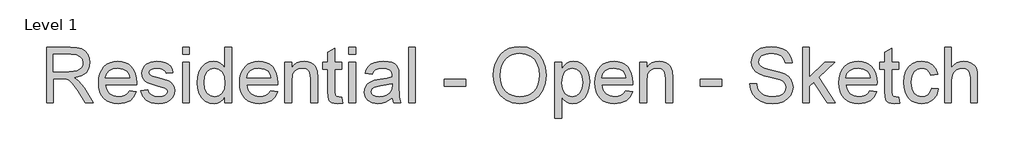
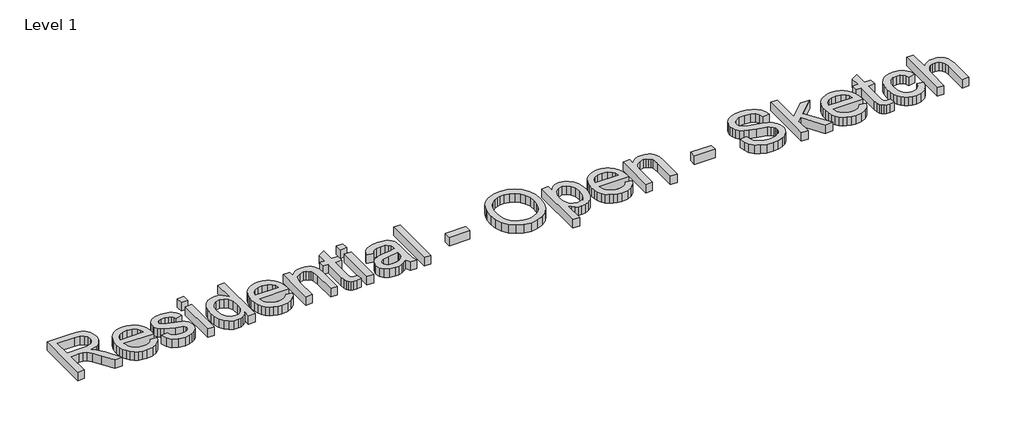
# One storey, part 12 of 26: 1 proxy.
"""IFC4 building model written with IfcOpenShell, lengths in millimetres."""

from ifc_helpers import new_model, si_unit, origin, origin_with_axes, place, context, project, spatial, polyline, outline, extrude, element, save

model = new_model("IFC4")

# Units and contexts
model_context = context("Model", 3, world=origin())
ifc_project = project(units=[si_unit("LENGTHUNIT", "METRE", prefix="MILLI")], contexts=[model_context])

# Site, building, storey
site = spatial("IfcSite", under=ifc_project)
building = spatial("IfcBuilding", under=site)
storey = spatial("IfcBuildingStorey", under=building, Name="Level 1", Elevation=0.0)

# Proxy
placement = place(None, origin())
element("IfcBuildingElementProxy", 1, Name="12\" Arial", ObjectType="12\" Arial", at=placement, inside=storey, context=model_context, shape_type="SweptSolid", body=[
    extrude(outline(polyline([(-4715.4981187, -5763.1232123), (-4715.4981187, -5463.012443), (-4586.1779264, -5463.012443), (-4551.420835, -5465.0365055), (-4526.1337918, -5471.108693), (-4507.6516283, -5482.3188854), (-4493.3091764, -5499.7569623), (-4484.1047293, -5521.380544), (-4481.0365802, -5545.1472507), (-4486.1196331, -5574.7113854), (-4501.3687918, -5599.219943), (-4512.9201439, -5609.2074551), (-4527.2419889, -5617.1892219), (-4564.1971571, -5627.13552), (-4542.875811, -5643.1814815), (-4512.4690802, -5681.7943661), (-4462.4261956, -5763.1232123), (-4506.0213879, -5763.1232123), (-4545.0738879, -5700.9176354), (-4573.2825418, -5659.7403277), (-4593.1018687, -5640.2873469), (-4610.9429264, -5633.1435969), (-4632.7038879, -5631.8247507), (-4677.9842725, -5631.8247507), (-4677.9842725, -5763.1232123), (-4715.4981187, -5763.1232123)]), holes=[polyline([(-4677.9842725, -5594.3109046), (-4594.0177341, -5594.3109046), (-4569.9029985, -5592.9828998), (-4551.1918687, -5588.9988854), (-4537.1058591, -5582.0932604), (-4526.8664841, -5572.0004238), (-4520.6294408, -5559.7919382), (-4518.5504264, -5546.5393661), (-4522.5161235, -5528.2403757), (-4534.4132148, -5513.494943), (-4554.8828062, -5503.7684527), (-4584.5660033, -5500.5262892), (-4677.9842725, -5500.5262892), (-4677.9842725, -5594.3109046)])]), origin_with_axes(), (0.0, 0.0, 1.0), 50.8),
    extrude(outline(polyline([(-4265.7715802, -5697.4739815), (-4228.9904264, -5702.1632123), (-4242.2429985, -5729.8772988), (-4263.3903302, -5750.5941738), (-4291.9561716, -5763.5078757), (-4327.4642725, -5767.812443), (-4350.7409913, -5765.955526), (-4371.4807629, -5760.3847748), (-4389.6835874, -5751.1001894), (-4405.3494648, -5738.10177), (-4417.9471932, -5721.7512832), (-4426.9455706, -5702.4104959), (-4432.344597, -5680.0794082), (-4434.1442725, -5654.75802), (-4432.3262797, -5628.5780079), (-4426.8723014, -5605.5027796), (-4417.7823374, -5585.5323349), (-4405.0563879, -5568.6666738), (-4389.4317244, -5555.2675632), (-4371.6456187, -5545.69677), (-4351.6980706, -5539.954294), (-4329.5890802, -5538.0401354), (-4308.1921752, -5539.9497147), (-4288.8422293, -5545.6784527), (-4271.5392425, -5555.2263493), (-4256.2832148, -5568.5934046), (-4243.8297353, -5585.422431), (-4234.9343927, -5605.3562411), (-4229.5971872, -5628.3948349), (-4227.8181187, -5654.5382123), (-4228.0379264, -5664.6493661), (-4396.6304264, -5664.6493661), (-4390.1369408, -5692.7297988), (-4375.0526379, -5713.3734046), (-4353.2825177, -5726.0672988), (-4326.7315802, -5730.2985969), (-4306.7657148, -5728.338645), (-4289.9504264, -5722.4587892), (-4276.2857148, -5712.2926834), (-4265.7715802, -5697.4739815)]), holes=[polyline([(-4396.6304264, -5627.13552), (-4265.3319648, -5627.13552), (-4270.4058591, -5607.316193), (-4280.3521571, -5593.1385969), (-4302.2230225, -5579.9501354), (-4329.7356187, -5575.5539815), (-4355.0226619, -5579.0617459), (-4375.9318687, -5589.5850392), (-4390.4666523, -5605.9881882), (-4396.6304264, -5627.13552)])]), origin_with_axes(), (0.0, 0.0, 1.0), 50.8),
    extrude(outline(polyline([(-4204.3719648, -5697.4739815), (-4166.8581187, -5692.7847507), (-4160.9416283, -5708.8307123), (-4149.493311, -5720.6270584), (-4132.4398975, -5727.8807123), (-4109.7081187, -5730.2985969), (-4087.2510994, -5728.0822027), (-4071.4615802, -5721.43302), (-4062.1197533, -5711.7981161), (-4059.005811, -5700.6245584), (-4062.1380706, -5691.0629238), (-4071.5348494, -5683.7726354), (-4110.1477341, -5673.0753277), (-4166.638311, -5654.7213854), (-4180.9349696, -5645.4986209), (-4191.2934071, -5633.2901354), (-4197.5854023, -5618.8744142), (-4199.6827341, -5603.029943), (-4197.9975418, -5588.4951594), (-4192.9419648, -5575.0777315), (-4184.973936, -5563.3088613), (-4174.5513879, -5553.7197507), (-4150.7022533, -5542.6194623), (-4118.4271571, -5538.0401354), (-4094.010186, -5539.8810248), (-4072.7804264, -5545.403693), (-4055.7086956, -5554.0677796), (-4043.765811, -5565.3329238), (-4035.8527341, -5580.0325632), (-4030.8704264, -5599.0001354), (-4068.3842725, -5603.6893661), (-4073.1192966, -5591.8838613), (-4082.4885994, -5582.9908084), (-4096.5837677, -5577.4131882), (-4115.4963879, -5575.5539815), (-4137.0375418, -5577.3307604), (-4151.398311, -5582.6610969), (-4159.4762437, -5590.3543661), (-4162.1688879, -5599.219943), (-4157.6994648, -5610.1370584), (-4143.7050418, -5618.4164815), (-4111.393311, -5626.4028277), (-4056.3314841, -5644.0607123), (-4041.7875418, -5652.5049911), (-4030.7605225, -5664.0632123), (-4023.8091043, -5678.7720104), (-4021.4919648, -5696.66802), (-4024.212085, -5715.1685007), (-4032.3724456, -5732.569943), (-4045.6616523, -5747.5077075), (-4063.768311, -5758.6171546), (-4085.6391764, -5765.5136209), (-4110.2210033, -5767.812443), (-4148.0462437, -5763.3796546), (-4175.6504264, -5750.0812892), (-4194.0776379, -5728.0638854), (-4204.3719648, -5697.4739815)])), origin_with_axes(), (0.0, 0.0, 1.0), 50.8),
    extrude(outline(polyline([(-3979.2888879, -5763.1232123), (-3979.2888879, -5542.7293661), (-3941.7750418, -5542.7293661), (-3941.7750418, -5763.1232123), (-3979.2888879, -5763.1232123)])), origin_with_axes(), (0.0, 0.0, 1.0), 50.8),
    extrude(outline(polyline([(-3979.2888879, -5500.5262892), (-3979.2888879, -5463.012443), (-3941.7750418, -5463.012443), (-3941.7750418, -5500.5262892), (-3979.2888879, -5500.5262892)])), origin_with_axes(), (0.0, 0.0, 1.0), 50.8),
    extrude(outline(polyline([(-3749.5165802, -5763.1232123), (-3749.5165802, -5727.7341738), (-3760.7405105, -5745.2684166), (-3774.3365321, -5757.7928757), (-3790.3046451, -5765.3075512), (-3808.6448494, -5767.812443), (-3832.8969648, -5764.1856161), (-3855.0975418, -5753.3051354), (-3873.8910994, -5735.931169), (-3887.9221571, -5712.8238854), (-3896.6595129, -5684.9174671), (-3899.5719648, -5653.1460969), (-3896.8884793, -5621.7685488), (-3888.8380225, -5593.4316738), (-3875.4297533, -5569.747395), (-3856.6728302, -5552.3276354), (-3833.9868446, -5541.6120104), (-3808.7913879, -5538.0401354), (-3790.4374456, -5540.5953998), (-3774.208311, -5548.261193), (-3760.4520129, -5560.0117459), (-3749.5165802, -5574.8212892), (-3749.5165802, -5463.012443), (-3712.0027341, -5463.012443), (-3712.0027341, -5763.1232123), (-3749.5165802, -5763.1232123)]), holes=[polyline([(-3862.0581187, -5652.9995584), (-3857.8268206, -5686.9323709), (-3845.1329264, -5711.0654238), (-3826.6873975, -5725.4903036), (-3805.2011956, -5730.2985969), (-3783.7241523, -5725.7101113), (-3765.7457148, -5711.9446546), (-3753.5738639, -5688.7457844), (-3749.5165802, -5655.8570584), (-3753.6471331, -5619.9001834), (-3766.0387918, -5594.9703277), (-3784.4751619, -5580.408068), (-3806.7398494, -5575.5539815), (-3828.4458591, -5580.2157363), (-3846.2319648, -5594.2010007), (-3858.1015802, -5618.2241498), (-3862.0581187, -5652.9995584)])]), origin_with_axes(), (0.0, 0.0, 1.0), 50.8),
    extrude(outline(polyline([(-3501.4269648, -5697.4739815), (-3464.645811, -5702.1632123), (-3477.8983831, -5729.8772988), (-3499.0457148, -5750.5941738), (-3527.6115562, -5763.5078757), (-3563.1196571, -5767.812443), (-3586.3963759, -5765.955526), (-3607.1361475, -5760.3847748), (-3625.338972, -5751.1001894), (-3641.0048494, -5738.10177), (-3653.6025778, -5721.7512832), (-3662.6009552, -5702.4104959), (-3667.9999817, -5680.0794082), (-3669.7996571, -5654.75802), (-3667.9816643, -5628.5780079), (-3662.527686, -5605.5027796), (-3653.437722, -5585.5323349), (-3640.7117725, -5568.6666738), (-3625.0871091, -5555.2675632), (-3607.3010033, -5545.69677), (-3587.3534552, -5539.954294), (-3565.2444648, -5538.0401354), (-3543.8475598, -5539.9497147), (-3524.4976139, -5545.6784527), (-3507.1946271, -5555.2263493), (-3491.9385994, -5568.5934046), (-3479.4851199, -5585.422431), (-3470.5897773, -5605.3562411), (-3465.2525718, -5628.3948349), (-3463.4735033, -5654.5382123), (-3463.693311, -5664.6493661), (-3632.285811, -5664.6493661), (-3625.7923254, -5692.7297988), (-3610.7080225, -5713.3734046), (-3588.9379023, -5726.0672988), (-3562.3869648, -5730.2985969), (-3542.4210994, -5728.338645), (-3525.605811, -5722.4587892), (-3511.9410994, -5712.2926834), (-3501.4269648, -5697.4739815)]), holes=[polyline([(-3632.285811, -5627.13552), (-3500.9873494, -5627.13552), (-3506.0612437, -5607.316193), (-3516.0075418, -5593.1385969), (-3537.8784071, -5579.9501354), (-3565.3910033, -5575.5539815), (-3590.6780466, -5579.0617459), (-3611.5872533, -5589.5850392), (-3626.1220369, -5605.9881882), (-3632.285811, -5627.13552)])]), origin_with_axes(), (0.0, 0.0, 1.0), 50.8),
    extrude(outline(polyline([(-3425.9596571, -5763.1232123), (-3425.9596571, -5542.7293661), (-3388.445811, -5542.7293661), (-3388.445811, -5573.502443), (-3375.4130466, -5557.9876834), (-3359.7609071, -5546.9057123), (-3341.4893927, -5540.2565296), (-3320.5985033, -5538.0401354), (-3302.1071812, -5539.8260729), (-3285.1728302, -5545.1838854), (-3271.050186, -5553.4449911), (-3260.9939841, -5563.9408084), (-3249.7471571, -5591.5266738), (-3247.7688879, -5627.794943), (-3247.7688879, -5763.1232123), (-3285.2827341, -5763.1232123), (-3285.2827341, -5632.85052), (-3289.6056187, -5599.6595584), (-3295.5862196, -5589.7773709), (-3304.8822533, -5582.1115777), (-3316.7976619, -5577.1933805), (-3330.6363879, -5575.5539815), (-3352.6079985, -5579.2357604), (-3371.3374456, -5590.2810969), (-3378.8223555, -5599.2977916), (-3384.1687196, -5611.6207604), (-3388.445811, -5646.18552), (-3388.445811, -5763.1232123), (-3425.9596571, -5763.1232123)])), origin_with_axes(), (0.0, 0.0, 1.0), 50.8),
    extrude(outline(polyline([(-3116.4704264, -5731.8372507), (-3111.7811956, -5764.2222507), (-3139.843311, -5767.812443), (-3157.8492244, -5766.2554719), (-3171.275811, -5761.5845584), (-3180.7641764, -5754.3858565), (-3186.9554264, -5745.24552), (-3190.3624456, -5729.5475873), (-3191.4981187, -5702.6760969), (-3191.4981187, -5580.2432123), (-3219.6335033, -5580.2432123), (-3219.6335033, -5542.7293661), (-3191.4981187, -5542.7293661), (-3191.4981187, -5489.1695584), (-3153.9842725, -5467.11552), (-3153.9842725, -5542.7293661), (-3116.4704264, -5542.7293661), (-3116.4704264, -5580.2432123), (-3153.9842725, -5580.2432123), (-3153.9842725, -5701.5770584), (-3152.0060033, -5720.9201354), (-3145.5949456, -5727.7708084), (-3132.8094648, -5730.2985969), (-3116.4704264, -5731.8372507)])), origin_with_axes(), (0.0, 0.0, 1.0), 50.8),
    extrude(outline(polyline([(-3078.9565802, -5763.1232123), (-3078.9565802, -5542.7293661), (-3041.4427341, -5542.7293661), (-3041.4427341, -5763.1232123), (-3078.9565802, -5763.1232123)])), origin_with_axes(), (0.0, 0.0, 1.0), 50.8),
    extrude(outline(polyline([(-3078.9565802, -5500.5262892), (-3078.9565802, -5463.012443), (-3041.4427341, -5463.012443), (-3041.4427341, -5500.5262892), (-3078.9565802, -5500.5262892)])), origin_with_axes(), (0.0, 0.0, 1.0), 50.8),
    extrude(outline(polyline([(-2844.4950418, -5734.9878277), (-2862.4185273, -5750.3560488), (-2880.8732148, -5760.4122507), (-2900.2804023, -5765.962395), (-2921.0613879, -5767.812443), (-2952.41146, -5763.3613373), (-2975.537061, -5750.00802), (-2989.797085, -5729.7307604), (-2994.5504264, -5704.5078277), (-2992.7553302, -5688.9564334), (-2987.3700418, -5674.8337892), (-2979.0631427, -5662.7443661), (-2968.5032148, -5653.2926354), (-2942.2361956, -5640.9834046), (-2909.7779264, -5635.3416738), (-2871.4214841, -5629.4068661), (-2844.7148494, -5622.4462892), (-2844.4950418, -5614.0935969), (-2847.0777821, -5597.3515777), (-2854.8260033, -5586.3978277), (-2872.1541764, -5578.264943), (-2896.2963879, -5575.5539815), (-2918.6435033, -5577.3582363), (-2934.2498494, -5582.7710007), (-2944.8922052, -5592.7814094), (-2952.3473494, -5608.3785969), (-2989.8611956, -5603.6893661), (-2983.3493927, -5583.1739815), (-2973.632061, -5567.0547507), (-2959.8024937, -5554.7272027), (-2940.9539841, -5545.5868661), (-2917.9016523, -5539.926818), (-2891.4606187, -5538.0401354), (-2866.1003062, -5539.7070104), (-2845.997061, -5544.7076354), (-2830.8394889, -5552.2268902), (-2820.3161956, -5561.4496546), (-2813.3373014, -5572.8521786), (-2808.8129264, -5586.9107123), (-2806.9811956, -5619.7353277), (-2806.9811956, -5666.4078277), (-2805.0761956, -5731.5808084), (-2797.6027341, -5763.1232123), (-2835.1165802, -5763.1232123), (-2844.4950418, -5734.9878277)]), holes=[polyline([(-2844.4950418, -5659.9601354), (-2905.0154264, -5671.4634046), (-2937.2905225, -5677.5447507), (-2951.9077341, -5687.4360969), (-2957.0365802, -5701.8701354), (-2954.2431908, -5713.0253757), (-2945.8630225, -5722.1657123), (-2932.0792485, -5728.2653757), (-2913.0750418, -5730.2985969), (-2892.9260033, -5728.0547267), (-2875.1215802, -5721.3231161), (-2860.6875418, -5711.404294), (-2850.6496571, -5699.5987892), (-2846.1985514, -5687.4360969), (-2844.7148494, -5670.5841738), (-2844.4950418, -5659.9601354)])]), origin_with_axes(), (0.0, 0.0, 1.0), 50.8),
    extrude(outline(polyline([(-2755.3996571, -5763.1232123), (-2755.3996571, -5463.012443), (-2717.885811, -5463.012443), (-2717.885811, -5763.1232123), (-2755.3996571, -5763.1232123)])), origin_with_axes(), (0.0, 0.0, 1.0), 50.8),
    extrude(outline(polyline([(-2563.1411956, -5674.0278277), (-2563.1411956, -5636.5139815), (-2445.9104264, -5636.5139815), (-2445.9104264, -5674.0278277), (-2563.1411956, -5674.0278277)])), origin_with_axes(), (0.0, 0.0, 1.0), 50.8),
    extrude(outline(polyline([(-2295.8550418, -5617.0243661), (-2293.3547293, -5581.8230801), (-2285.8537918, -5550.6607604), (-2273.3522293, -5523.537407), (-2255.8500418, -5500.45302), (-2234.3958951, -5482.0212291), (-2210.0384552, -5468.8556642), (-2182.777722, -5460.9563253), (-2152.6136956, -5458.3232123), (-2113.2498014, -5463.2688854), (-2077.9523494, -5478.1059046), (-2048.6446571, -5501.7901834), (-2027.2500418, -5533.2776354), (-2014.1714841, -5571.0479238), (-2009.8119648, -5613.5807123), (-2014.4004504, -5656.6813373), (-2028.1659071, -5694.9828277), (-2050.3481668, -5726.5252315), (-2080.187061, -5749.3485969), (-2115.1822773, -5763.1964815), (-2152.8335033, -5767.812443), (-2192.8018687, -5762.7110729), (-2228.300811, -5747.4069623), (-2257.5352341, -5723.283068), (-2278.7100418, -5691.7223469), (-2291.5687918, -5655.4082844), (-2295.8550418, -5617.0243661)]), holes=[polyline([(-2258.3411956, -5617.3907123), (-2256.4659612, -5642.2610368), (-2250.8402581, -5664.3379719), (-2241.4640862, -5683.6215176), (-2228.3374456, -5700.1116738), (-2212.3807809, -5713.3184527), (-2194.5145369, -5722.7518661), (-2174.7387136, -5728.4119142), (-2153.053311, -5730.2985969), (-2130.9969829, -5728.3935969), (-2110.9876139, -5722.6785969), (-2093.025204, -5713.1535969), (-2077.1097533, -5699.8185969), (-2064.0792785, -5682.9804118), (-2054.7717966, -5662.9458565), (-2049.1873074, -5639.714931), (-2047.325811, -5613.2876354), (-2050.5130225, -5580.0783565), (-2060.0746571, -5551.3751354), (-2075.7634312, -5527.9015055), (-2097.332061, -5510.3810007), (-2123.3517966, -5499.473044), (-2152.3938879, -5495.8370584), (-2173.3259913, -5497.588651), (-2192.7469168, -5502.8434286), (-2210.6566643, -5511.6013914), (-2227.0552341, -5523.8625392), (-2240.7428422, -5540.2176053), (-2250.5197052, -5561.2573229), (-2256.385823, -5586.9816918), (-2258.3411956, -5617.3907123)])]), origin_with_axes(), (0.0, 0.0, 1.0), 50.8),
    extrude(outline(polyline([(-1962.9196571, -5847.5293661), (-1962.9196571, -5542.7293661), (-1925.405811, -5542.7293661), (-1925.405811, -5579.51052), (-1913.1698494, -5561.3672267), (-1899.4685033, -5548.4077315), (-1883.495811, -5540.6320344), (-1864.445811, -5538.0401354), (-1839.0763398, -5541.6669623), (-1816.8940802, -5552.547443), (-1798.8332148, -5570.0221546), (-1785.8279264, -5593.4316738), (-1777.9698014, -5621.0724911), (-1775.3504264, -5651.2410969), (-1778.3086716, -5683.3238613), (-1787.1834071, -5712.0179238), (-1801.6907148, -5735.8670584), (-1821.5466764, -5753.4150392), (-1844.6722773, -5764.2130921), (-1868.9885033, -5767.812443), (-1886.2342485, -5765.4037171), (-1901.6299456, -5758.1775392), (-1914.8092485, -5747.2695825), (-1925.405811, -5733.81552), (-1925.405811, -5847.5293661), (-1962.9196571, -5847.5293661)]), holes=[polyline([(-1925.405811, -5654.6847507), (-1921.3485273, -5688.3153277), (-1909.1766764, -5711.8347507), (-1891.2165562, -5725.6826354), (-1869.7944648, -5730.2985969), (-1848.0243446, -5725.5177796), (-1829.6062918, -5711.1753277), (-1817.0497773, -5686.7949911), (-1812.8642725, -5651.90052), (-1816.9490321, -5618.4531161), (-1829.203311, -5594.6039815), (-1847.1359552, -5580.3164815), (-1868.255811, -5575.5539815), (-1889.4580946, -5580.6187171), (-1908.0776379, -5595.8129238), (-1921.0737677, -5620.6603517), (-1925.405811, -5654.6847507)])]), origin_with_axes(), (0.0, 0.0, 1.0), 50.8),
    extrude(outline(polyline([(-1578.8423494, -5697.4739815), (-1542.0611956, -5702.1632123), (-1555.3137677, -5729.8772988), (-1576.4610994, -5750.5941738), (-1605.0269408, -5763.5078757), (-1640.5350418, -5767.812443), (-1663.8117605, -5765.955526), (-1684.5515321, -5760.3847748), (-1702.7543567, -5751.1001894), (-1718.4202341, -5738.10177), (-1731.0179624, -5721.7512832), (-1740.0163398, -5702.4104959), (-1745.4153663, -5680.0794082), (-1747.2150418, -5654.75802), (-1745.397049, -5628.5780079), (-1739.9430706, -5605.5027796), (-1730.8531067, -5585.5323349), (-1718.1271571, -5568.6666738), (-1702.5024937, -5555.2675632), (-1684.7163879, -5545.69677), (-1664.7688398, -5539.954294), (-1642.6598494, -5538.0401354), (-1621.2629444, -5539.9497147), (-1601.9129985, -5545.6784527), (-1584.6100117, -5555.2263493), (-1569.3539841, -5568.5934046), (-1556.9005045, -5585.422431), (-1548.0051619, -5605.3562411), (-1542.6679564, -5628.3948349), (-1540.8888879, -5654.5382123), (-1541.1086956, -5664.6493661), (-1709.7011956, -5664.6493661), (-1703.20771, -5692.7297988), (-1688.1234071, -5713.3734046), (-1666.3532869, -5726.0672988), (-1639.8023494, -5730.2985969), (-1619.8364841, -5728.338645), (-1603.0211956, -5722.4587892), (-1589.3564841, -5712.2926834), (-1578.8423494, -5697.4739815)]), holes=[polyline([(-1709.7011956, -5627.13552), (-1578.4027341, -5627.13552), (-1583.4766283, -5607.316193), (-1593.4229264, -5593.1385969), (-1615.2937918, -5579.9501354), (-1642.8063879, -5575.5539815), (-1668.0934312, -5579.0617459), (-1689.0026379, -5589.5850392), (-1703.5374216, -5605.9881882), (-1709.7011956, -5627.13552)])]), origin_with_axes(), (0.0, 0.0, 1.0), 50.8),
    extrude(outline(polyline([(-1503.3750418, -5763.1232123), (-1503.3750418, -5542.7293661), (-1465.8611956, -5542.7293661), (-1465.8611956, -5573.502443), (-1452.8284312, -5557.9876834), (-1437.1762918, -5546.9057123), (-1418.9047773, -5540.2565296), (-1398.0138879, -5538.0401354), (-1379.5225658, -5539.8260729), (-1362.5882148, -5545.1838854), (-1348.4655706, -5553.4449911), (-1338.4093687, -5563.9408084), (-1327.1625418, -5591.5266738), (-1325.1842725, -5627.794943), (-1325.1842725, -5763.1232123), (-1362.6981187, -5763.1232123), (-1362.6981187, -5632.85052), (-1367.0210033, -5599.6595584), (-1373.0016043, -5589.7773709), (-1382.2976379, -5582.1115777), (-1394.2130466, -5577.1933805), (-1408.0517725, -5575.5539815), (-1430.0233831, -5579.2357604), (-1448.7528302, -5590.2810969), (-1456.2377401, -5599.2977916), (-1461.5841043, -5611.6207604), (-1465.8611956, -5646.18552), (-1465.8611956, -5763.1232123), (-1503.3750418, -5763.1232123)])), origin_with_axes(), (0.0, 0.0, 1.0), 50.8),
    extrude(outline(polyline([(-1175.1288879, -5674.0278277), (-1175.1288879, -5636.5139815), (-1057.8981187, -5636.5139815), (-1057.8981187, -5674.0278277), (-1175.1288879, -5674.0278277)])), origin_with_axes(), (0.0, 0.0, 1.0), 50.8),
    extrude(outline(polyline([(-907.8427341, -5659.9601354), (-870.3288879, -5659.9601354), (-866.0243206, -5680.7777555), (-858.2394648, -5697.5106161), (-846.0950898, -5710.7906642), (-828.7119648, -5721.2498469), (-807.4638879, -5728.0364094), (-783.7246571, -5730.2985969), (-762.8246091, -5728.5859286), (-744.5256187, -5723.4479238), (-729.6977581, -5715.3150392), (-719.2110994, -5704.6177315), (-712.9740562, -5692.3359767), (-710.8950418, -5679.4497507), (-712.4520129, -5666.8932363), (-717.1229264, -5656.0402315), (-726.6112918, -5646.7808325), (-742.6206187, -5639.0051354), (-797.2428302, -5624.6810007), (-833.09896, -5615.201794), (-856.0413879, -5606.18052), (-874.7158831, -5593.559895), (-887.9501379, -5578.264943), (-895.8357389, -5560.6253757), (-898.4642725, -5540.9709046), (-895.2129504, -5518.999294), (-885.4589841, -5498.5113854), (-869.4588158, -5481.1465777), (-847.4688879, -5468.54427), (-821.0736475, -5460.8784767), (-791.8575418, -5458.3232123), (-760.2052341, -5460.9975392), (-732.5094648, -5469.02052), (-709.7593687, -5482.2272988), (-692.9440802, -5500.45302), (-682.3017244, -5522.5620104), (-678.0704264, -5547.4185969), (-715.5842725, -5547.4185969), (-722.4715802, -5525.0348469), (-736.8323494, -5508.8789815), (-759.2710514, -5499.0975392), (-790.3921571, -5495.8370584), (-822.2459552, -5499.0609046), (-844.0985033, -5508.732443), (-856.7374456, -5522.9649911), (-860.9504264, -5539.8718661), (-857.9647052, -5554.2875873), (-849.0075418, -5565.882443), (-827.8327341, -5576.2500392), (-787.7544648, -5586.837443), (-746.3939841, -5596.893645), (-721.3725418, -5605.6676354), (-699.987085, -5619.277395), (-685.0676379, -5636.0743661), (-676.3028062, -5655.8753757), (-673.3811956, -5678.4972507), (-676.7424216, -5701.6228517), (-686.8260994, -5723.3746546), (-703.2200898, -5742.094943), (-725.5122533, -5756.1260007), (-752.3196331, -5764.8908325), (-782.2592725, -5767.812443), (-819.0129504, -5764.6618661), (-849.2639841, -5755.2101354), (-873.3604023, -5739.4206161), (-891.6502341, -5717.2566738), (-903.3916283, -5690.2569623), (-907.8427341, -5659.9601354)])), origin_with_axes(), (0.0, 0.0, 1.0), 50.8),
    extrude(outline(polyline([(-621.7996571, -5763.1232123), (-621.7996571, -5463.012443), (-584.285811, -5463.012443), (-584.285811, -5624.27802), (-500.1727341, -5542.7293661), (-448.2981187, -5542.7293661), (-533.4369648, -5625.3037892), (-443.6088879, -5763.1232123), (-487.4238879, -5763.1232123), (-560.3267725, -5651.3876354), (-584.285811, -5674.6139815), (-584.285811, -5763.1232123), (-621.7996571, -5763.1232123)])), origin_with_axes(), (0.0, 0.0, 1.0), 50.8),
    extrude(outline(polyline([(-256.4792725, -5697.4739815), (-219.6981187, -5702.1632123), (-232.9506908, -5729.8772988), (-254.0980225, -5750.5941738), (-282.6638639, -5763.5078757), (-318.1719648, -5767.812443), (-341.4486836, -5765.955526), (-362.1884552, -5760.3847748), (-380.3912797, -5751.1001894), (-396.0571571, -5738.10177), (-408.6548855, -5721.7512832), (-417.6532629, -5702.4104959), (-423.0522893, -5680.0794082), (-424.8519648, -5654.75802), (-423.033972, -5628.5780079), (-417.5799937, -5605.5027796), (-408.4900297, -5585.5323349), (-395.7640802, -5568.6666738), (-380.1394168, -5555.2675632), (-362.353311, -5545.69677), (-342.4057629, -5539.954294), (-320.2967725, -5538.0401354), (-298.8998675, -5539.9497147), (-279.5499216, -5545.6784527), (-262.2469348, -5555.2263493), (-246.9909071, -5568.5934046), (-234.5374276, -5585.422431), (-225.642085, -5605.3562411), (-220.3048795, -5628.3948349), (-218.525811, -5654.5382123), (-218.7456187, -5664.6493661), (-387.3381187, -5664.6493661), (-380.8446331, -5692.7297988), (-365.7603302, -5713.3734046), (-343.99021, -5726.0672988), (-317.4392725, -5730.2985969), (-297.4734071, -5728.338645), (-280.6581187, -5722.4587892), (-266.9934071, -5712.2926834), (-256.4792725, -5697.4739815)]), holes=[polyline([(-387.3381187, -5627.13552), (-256.0396571, -5627.13552), (-261.1135514, -5607.316193), (-271.0598494, -5593.1385969), (-292.9307148, -5579.9501354), (-320.443311, -5575.5539815), (-345.7303543, -5579.0617459), (-366.639561, -5589.5850392), (-381.1743446, -5605.9881882), (-387.3381187, -5627.13552)])]), origin_with_axes(), (0.0, 0.0, 1.0), 50.8),
    extrude(outline(polyline([(-101.2950418, -5731.8372507), (-96.605811, -5764.2222507), (-124.6679264, -5767.812443), (-142.6738398, -5766.2554719), (-156.1004264, -5761.5845584), (-165.5887918, -5754.3858565), (-171.7800418, -5745.24552), (-175.187061, -5729.5475873), (-176.3227341, -5702.6760969), (-176.3227341, -5580.2432123), (-204.4581187, -5580.2432123), (-204.4581187, -5542.7293661), (-176.3227341, -5542.7293661), (-176.3227341, -5489.1695584), (-138.8088879, -5467.11552), (-138.8088879, -5542.7293661), (-101.2950418, -5542.7293661), (-101.2950418, -5580.2432123), (-138.8088879, -5580.2432123), (-138.8088879, -5701.5770584), (-136.8306187, -5720.9201354), (-130.419561, -5727.7708084), (-117.6340802, -5730.2985969), (-101.2950418, -5731.8372507)])), origin_with_axes(), (0.0, 0.0, 1.0), 50.8),
    extrude(outline(polyline([(76.8957275, -5683.4062892), (114.4095736, -5688.09552), (103.9503909, -5721.4604959), (84.2959198, -5746.67427), (57.2962082, -5762.5278998), (24.8013044, -5767.812443), (3.7615869, -5765.969264), (-15.1029504, -5760.4397267), (-31.7923074, -5751.2238313), (-46.3064841, -5738.3215777), (-58.0547473, -5721.9756702), (-66.4463639, -5702.4288132), (-71.4813338, -5679.6810067), (-73.1596571, -5653.7322507), (-70.2929985, -5620.3489575), (-61.6930225, -5591.41677), (-47.2223494, -5568.053044), (-26.7435994, -5551.3751354), (-2.2442004, -5541.3738854), (24.2884198, -5538.0401354), (55.9865207, -5542.6194623), (81.3285159, -5556.357443), (99.5084438, -5578.5213854), (109.7203429, -5608.3785969), (72.2064967, -5613.0678277), (65.4016169, -5596.7013132), (54.8050544, -5584.9690777), (41.0029631, -5577.9077555), (24.5814967, -5575.5539815), (0.33854, -5580.1882604), (-18.9037918, -5594.0910969), (-31.4603062, -5618.0135007), (-35.645811, -5652.7064815), (-31.5518927, -5687.8665536), (-19.2701379, -5711.8713854), (-0.375835, -5725.691794), (23.5557275, -5730.2985969), (42.9812323, -5727.4227796), (58.9081313, -5718.7953277), (70.4938284, -5704.1964334), (76.8957275, -5683.4062892)])), origin_with_axes(), (0.0, 0.0, 1.0), 50.8),
    extrude(outline(polyline([(147.234189, -5763.1232123), (147.234189, -5463.012443), (184.7480352, -5463.012443), (184.7480352, -5573.3559046), (198.5272299, -5557.9052555), (214.0007756, -5546.8690777), (231.1686722, -5540.2473709), (250.0309198, -5538.0401354), (272.6894294, -5540.4488613), (292.1607275, -5547.6750392), (307.492314, -5559.1508325), (317.731689, -5574.3084046), (323.5016409, -5595.1351834), (325.4249582, -5623.6185969), (325.4249582, -5763.1232123), (287.9111121, -5763.1232123), (287.9111121, -5627.5018661), (284.9253909, -5604.0190777), (275.9682275, -5587.9364815), (261.534189, -5578.6496065), (242.1178429, -5575.5539815), (226.2642131, -5577.6421546), (211.3814006, -5583.9066738), (199.0538525, -5593.743068), (190.8660159, -5606.5468661), (186.2775304, -5623.563645), (184.7480352, -5646.0389815), (184.7480352, -5763.1232123), (147.234189, -5763.1232123)])), origin_with_axes(), (0.0, 0.0, 1.0), 50.8),
])

save(model, "model.ifc")
